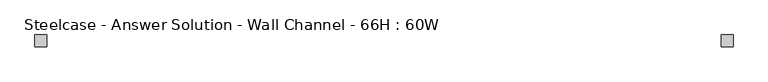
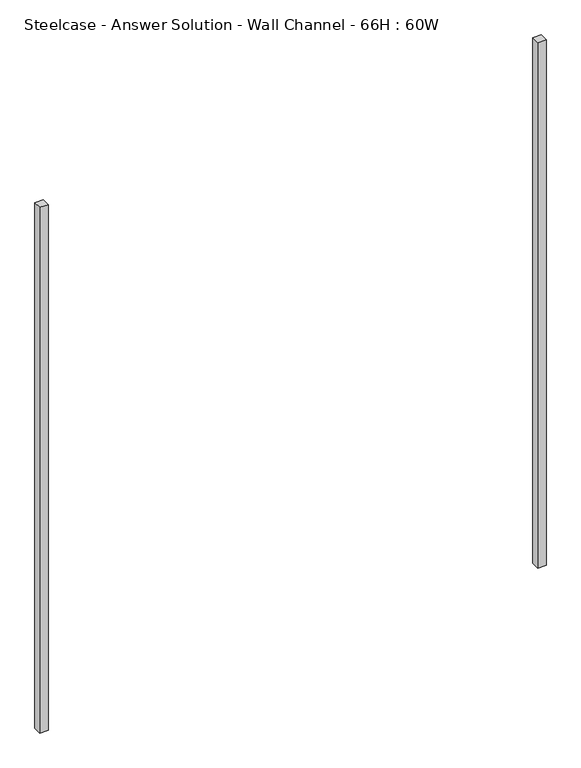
"""IFC4 building model written with IfcOpenShell, lengths in millimetres: furniture geometry, Steelcase - Answer Solution - Wall Channel - 66H : 60W."""

from ifc_helpers import new_model, si_unit, origin, origin_with_axes, place, context, project, spatial, polyline, outline, extrude, source, transform, mapped, element, save


def steelcase_answer_solution_wall_channel_66h_60w_7bcefa21(model_context):
    return source(origin(), model_context, "Body", "SweptSolid", [
        extrude(outline(polyline([(1498.6, 0.0), (1524.0, 0.0), (1524.0, -25.4), (1498.6, -25.4), (1498.6, 0.0)])), origin_with_axes(), (0.0, 0.0, 1.0), 1673.225),
        extrude(outline(polyline([(25.4, 0.0), (25.4, -25.4), (0.0, -25.4), (0.0, 0.0), (25.4, 0.0)])), origin_with_axes(), (0.0, 0.0, 1.0), 1673.225),
    ])


if __name__ == "__main__":
    model = new_model("IFC4")
    model_context = context("Model", 3, world=origin())
    ifc_project = project(units=[si_unit("LENGTHUNIT", "METRE", prefix="MILLI")], contexts=[model_context])
    site = spatial("IfcSite", under=ifc_project)
    building = spatial("IfcBuilding", under=site)
    placement = place(None, origin())
    steelcase_answer_solution_wall_channel_66h_60w_shape = steelcase_answer_solution_wall_channel_66h_60w_7bcefa21(model_context)
    element("IfcFurniture", 1, ObjectType="Steelcase - Answer Solution - Wall Channel - 66H : 60W", at=placement, inside=building, context=model_context, shape_type="MappedRepresentation", body=[
        mapped(steelcase_answer_solution_wall_channel_66h_60w_shape, transform((0.0, 0.0, 0.0), x_axis=(1.0, 0.0, 0.0), y_axis=(0.0, 1.0, 0.0), z_axis=(0.0, 0.0, 1.0))),
    ])
    save(model, "model.ifc")
